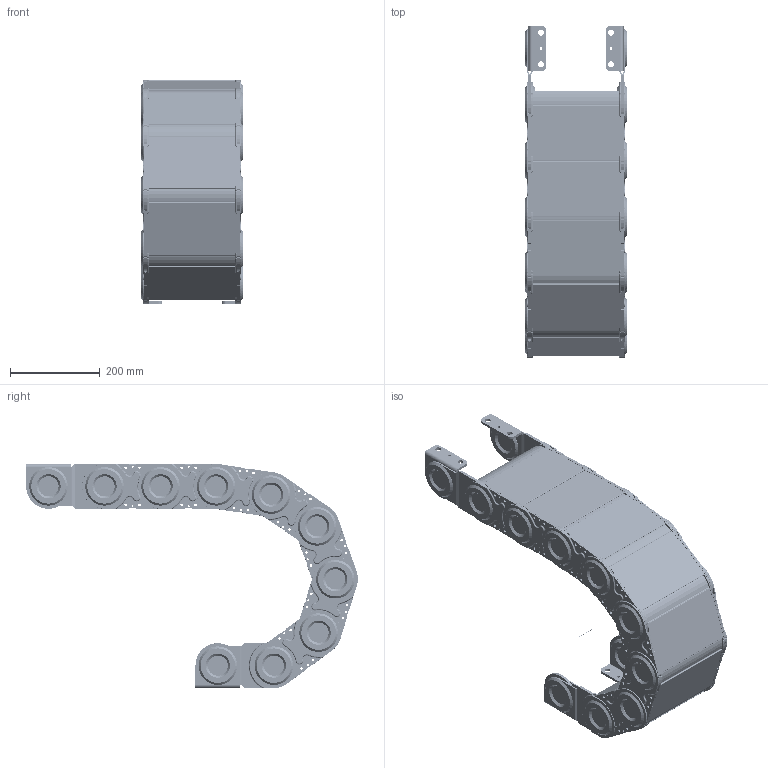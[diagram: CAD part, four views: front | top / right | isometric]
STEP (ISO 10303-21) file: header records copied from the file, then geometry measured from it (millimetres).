
FILE_DESCRIPTION((''),'2;1');
FILE_NAME('C:\Uebbing\TRACE PARTS\SLE\SLE 525\SLE 525 vereinfacht.stp','2013-05-27T11:59:19',('Uebbing'),(''),'Autodesk Inventor 10','Autodesk Inventor 10','');
FILE_SCHEMA(('AUTOMOTIVE_DESIGN { 1 0 10303 214 1 1 1 1 }'));
Length unit declared in the file: millimetre
Products named in the file (8): SLE 525 vereinfacht; SLE 525 Glied vereinfacht; SLE 520 Hauptlasche vereinfacht; SLE 525 ASI; SLE 525 ASA; Achse; SLE 520 Anschluß N doppelt vereinfacht; SLE 520 Anschluß N vereinfacht
Assembly tree (14 placements, depth 3):
  SLE 525 vereinfacht
    SLE 525 Glied vereinfacht  x7
      SLE 520 Hauptlasche vereinfacht
      SLE 525 ASI
      SLE 525 ASA
    Achse
    SLE 520 Anschluß N doppelt vereinfacht
    SLE 520 Anschluß N vereinfacht
Bounding box: 228 x 740.26 x 500 mm (x, y, z)
Volume: 4922514.4 mm3; surface area: 2324644.1 mm2
Topology: 33 solids, 33 shells, 5140 faces, 11981 edges, 6979 vertices
Faces by surface type: cylinder 2038, torus 1628, plane 700, bspline 694, cone 80
Full cylindrical faces by diameter (mm): 1 x1, 4.6 x28, 5.5 x32, 6.3 x56, 13 x8, 45 x40, 86 x36
Entity records: 24112 total; most frequent: CARTESIAN_POINT 8889, DIRECTION 3297, ORIENTED_EDGE 2986, EDGE_CURVE 1493, AXIS2_PLACEMENT_3D 1342, VERTEX_POINT 960, EDGE_LOOP 791, CIRCLE 730
